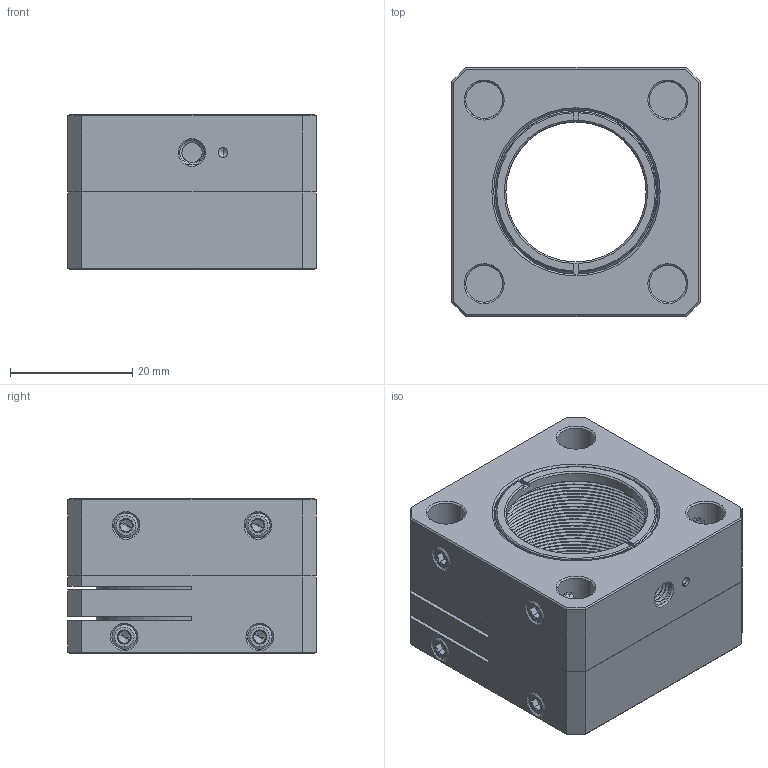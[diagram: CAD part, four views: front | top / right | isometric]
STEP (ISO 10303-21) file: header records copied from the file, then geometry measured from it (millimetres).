
FILE_DESCRIPTION((''),'2;1');
FILE_NAME('CSJ-R1_ASM','2021-07-12T',('Administrator'),(''),'CREO PARAMETRIC BY PTC INC, 2015290','CREO PARAMETRIC BY PTC INC, 2015290','');
FILE_SCHEMA(('CONFIG_CONTROL_DESIGN'));
Products named in the file (7): M2_5X25_HM; CSJ-R1_A1; M4X4_HSJ; CSJ-R1_A3; CSJ-R1_A2; CSJ-R1_A4; CSJ-R1_ASM
Assembly tree (14 placements, depth 2):
  CSJ-R1_ASM
    M2_5X25_HM
    CSJ-R1_A1
    M4X4_HSJ  x8
    CSJ-R1_A3
    CSJ-R1_A2  x2
    CSJ-R1_A4
Bounding box: 40.64 x 40.64 x 25.4 mm (x, y, z)
Volume: 24606.9 mm3; surface area: 20921.6 mm2
Topology: 14 solids, 14 shells, 2985 faces, 7755 edges, 5044 vertices
Faces by surface type: plane 1416, cylinder 540, extrusion 505, bspline 306, cone 216, sphere 2
Entity records: 163116 total; most frequent: CARTESIAN_POINT 101001, ORIENTED_EDGE 14468, DIRECTION 9209, EDGE_CURVE 7234, VERTEX_POINT 4770, VECTOR 4613, LINE 4108, B_SPLINE_CURVE_WITH_KNOTS 3295
